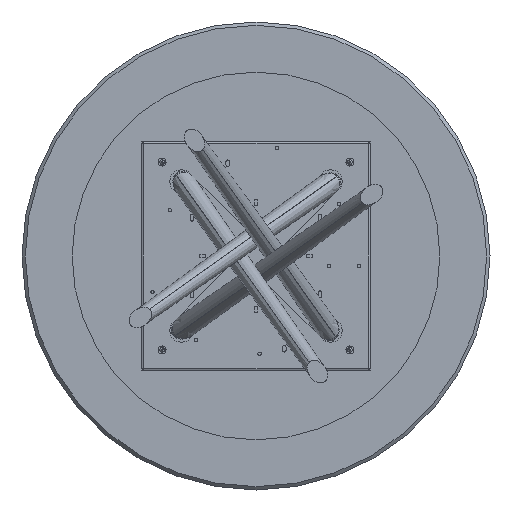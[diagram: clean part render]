
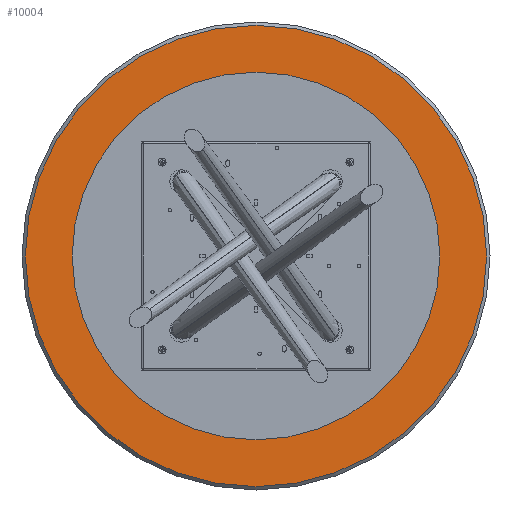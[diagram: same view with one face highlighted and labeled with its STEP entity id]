
A CAD part, front view. The second image highlights one B-rep face of the part: STEP entity #10004.
In plain terms, the highlighted planar face has unit normal (0, -1, 0).
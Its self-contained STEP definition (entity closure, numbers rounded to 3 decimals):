
#174 = EDGE_CURVE ( 'NONE', #7265, #16650, #11877, .T. ) ;
#560 = ORIENTED_EDGE ( 'NONE', *, *, #174, .F. ) ;
#690 = DIRECTION ( 'NONE',  ( 0., -1., 0. ) ) ;
#1150 = DIRECTION ( 'NONE',  ( 0., 0., -1. ) ) ;
#1336 = CIRCLE ( 'NONE', #11302, 3.3 ) ;
#1462 = CIRCLE ( 'NONE', #5725, 690. ) ;
#1618 = CARTESIAN_POINT ( 'NONE',  ( 0., 0., 3.3 ) ) ;
#1681 = EDGE_CURVE ( 'NONE', #16650, #7265, #1336, .T. ) ;
#2031 = DIRECTION ( 'NONE',  ( 0., 0., -1. ) ) ;
#2479 = CARTESIAN_POINT ( 'NONE',  ( 0., 0., -690. ) ) ;
#2552 = DIRECTION ( 'NONE',  ( 0., -1., 0. ) ) ;
#3319 = AXIS2_PLACEMENT_3D ( 'NONE', #13352, #12106, #1150 ) ;
#3538 = CARTESIAN_POINT ( 'NONE',  ( 0., 0., -3.3 ) ) ;
#3543 = DIRECTION ( 'NONE',  ( 0., 0., -1. ) ) ;
#3663 = VERTEX_POINT ( 'NONE', #9285 ) ;
#3988 = EDGE_CURVE ( 'NONE', #5648, #3663, #1462, .T. ) ;
#4487 = AXIS2_PLACEMENT_3D ( 'NONE', #17030, #14467, #3543 ) ;
#4696 = FACE_BOUND ( 'NONE', #7083, .T. ) ;
#4824 = DIRECTION ( 'NONE',  ( 0., -1., 0. ) ) ;
#5397 = DIRECTION ( 'NONE',  ( 0., 0., -1. ) ) ;
#5648 = VERTEX_POINT ( 'NONE', #2479 ) ;
#5666 = EDGE_CURVE ( 'NONE', #3663, #5648, #16631, .T. ) ;
#5725 = AXIS2_PLACEMENT_3D ( 'NONE', #11516, #4824, #12856 ) ;
#5955 = EDGE_LOOP ( 'NONE', ( #15511, #13602 ) ) ;
#7083 = EDGE_LOOP ( 'NONE', ( #13649, #560 ) ) ;
#7265 = VERTEX_POINT ( 'NONE', #1618 ) ;
#7618 = CARTESIAN_POINT ( 'NONE',  ( 0., 0., 0. ) ) ;
#8803 = FACE_OUTER_BOUND ( 'NONE', #5955, .T. ) ;
#9285 = CARTESIAN_POINT ( 'NONE',  ( 0., 0., 690. ) ) ;
#10004 = ADVANCED_FACE ( 'NONE', ( #4696, #8803 ), #14216, .T. ) ;
#10372 = AXIS2_PLACEMENT_3D ( 'NONE', #7618, #690, #2031 ) ;
#10756 = CARTESIAN_POINT ( 'NONE',  ( 0., 0., 0. ) ) ;
#11302 = AXIS2_PLACEMENT_3D ( 'NONE', #10756, #2552, #5397 ) ;
#11516 = CARTESIAN_POINT ( 'NONE',  ( 0., 0., 0. ) ) ;
#11877 = CIRCLE ( 'NONE', #4487, 3.3 ) ;
#12106 = DIRECTION ( 'NONE',  ( 0., -1., 0. ) ) ;
#12856 = DIRECTION ( 'NONE',  ( 0., 0., -1. ) ) ;
#13352 = CARTESIAN_POINT ( 'NONE',  ( 0., 0., 0. ) ) ;
#13602 = ORIENTED_EDGE ( 'NONE', *, *, #3988, .T. ) ;
#13649 = ORIENTED_EDGE ( 'NONE', *, *, #1681, .F. ) ;
#14216 = PLANE ( 'NONE',  #10372 ) ;
#14467 = DIRECTION ( 'NONE',  ( 0., -1., 0. ) ) ;
#15511 = ORIENTED_EDGE ( 'NONE', *, *, #5666, .T. ) ;
#16631 = CIRCLE ( 'NONE', #3319, 690. ) ;
#16650 = VERTEX_POINT ( 'NONE', #3538 ) ;
#17030 = CARTESIAN_POINT ( 'NONE',  ( 0., 0., 0. ) ) ;
